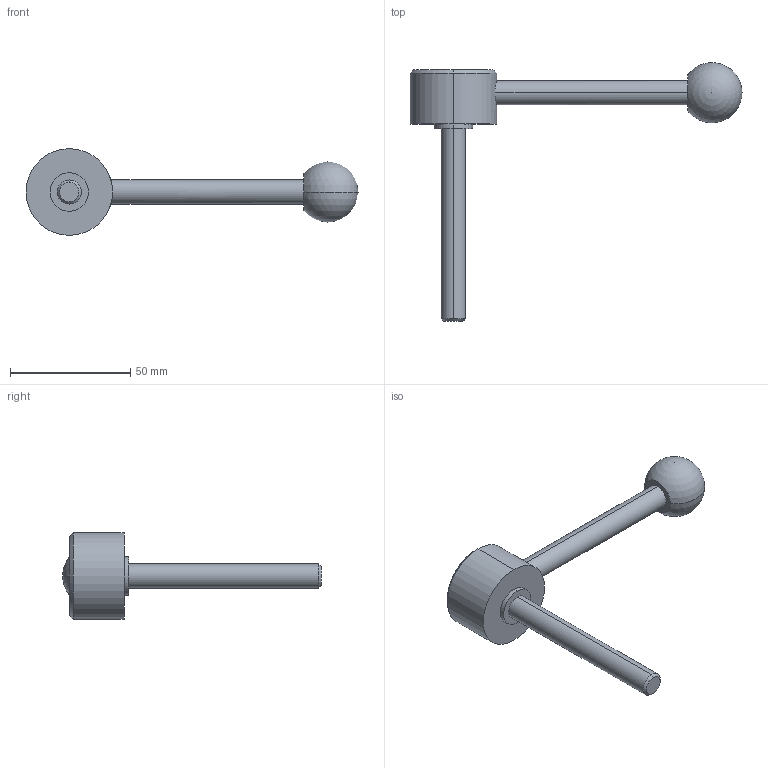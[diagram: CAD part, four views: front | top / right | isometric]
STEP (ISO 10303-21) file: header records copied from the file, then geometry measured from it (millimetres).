
FILE_DESCRIPTION (( 'STEP AP214' ), '1' );
FILE_NAME ('125.5-36-M10-80-D.step', '2020-02-18T11:30:41', ( '' ), ( '' ), 'SwSTEP 2.0', 'SolidWorks 2019', '' );
FILE_SCHEMA (( 'AUTOMOTIVE_DESIGN' ));
Length unit declared in the file: millimetre
Products named in the file (1): 125.5-36-M10-80-D
Bounding box: 138 x 107.5 x 36 mm (x, y, z)
Volume: 43755.3 mm3; surface area: 11379 mm2
Topology: 1 solids, 1 shells, 22 faces, 47 edges, 30 vertices
Faces by surface type: cylinder 10, plane 6, cone 4, sphere 2
Entity records: 738 total; most frequent: CARTESIAN_POINT 166, DIRECTION 112, ORIENTED_EDGE 84, AXIS2_PLACEMENT_3D 49, EDGE_CURVE 42, EDGE_LOOP 27, VERTEX_POINT 27, CIRCLE 26
